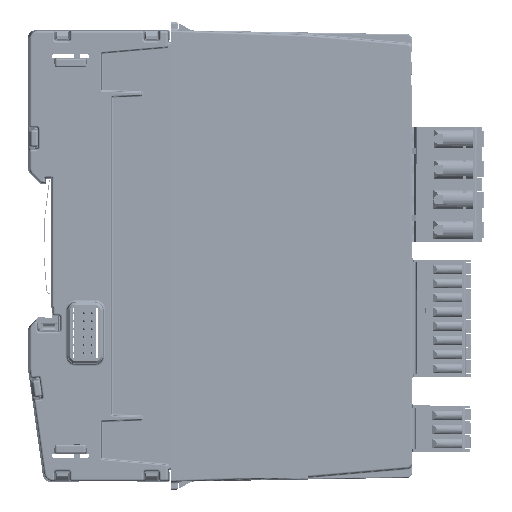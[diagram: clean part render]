
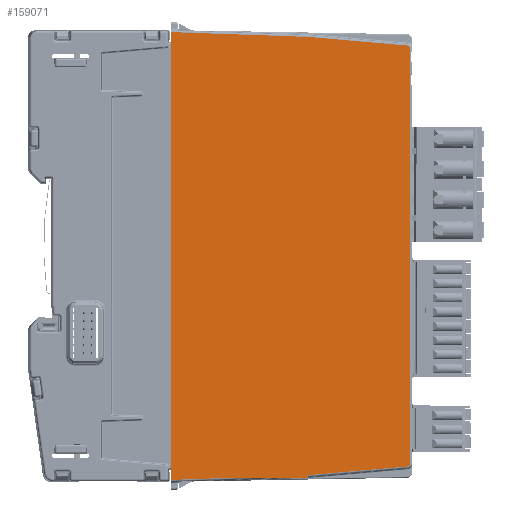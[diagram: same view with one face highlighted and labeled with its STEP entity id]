
A CAD part, left-side view. The second image highlights one B-rep face of the part: STEP entity #159071.
In plain terms, the highlighted planar face has unit normal (-1, -0.018, 0).
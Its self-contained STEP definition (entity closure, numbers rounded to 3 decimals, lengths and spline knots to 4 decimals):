
#4876=ELLIPSE('',#171214,0.0315,0.0315);
#4877=ELLIPSE('',#171215,0.0315,0.0315);
#9772=PLANE('',#171213);
#17433=FACE_OUTER_BOUND('',#26300,.T.);
#26300=EDGE_LOOP('',(#137357,#137358,#137359,#137360,#137361,#137362,#137363,
#137364,#137365,#137366,#137367,#137368,#137369));
#45633=LINE('',#270170,#61590);
#45646=LINE('',#270242,#61603);
#45703=LINE('',#270470,#61660);
#46033=LINE('',#272298,#61990);
#46034=LINE('',#272300,#61991);
#46035=LINE('',#272304,#61992);
#46036=LINE('',#272308,#61993);
#46037=LINE('',#272310,#61994);
#46038=LINE('',#272312,#61995);
#46039=LINE('',#272314,#61996);
#46040=LINE('',#272315,#61997);
#61590=VECTOR('',#207824,0.3937);
#61603=VECTOR('',#207865,0.3937);
#61660=VECTOR('',#208060,39.3701);
#61990=VECTOR('',#208784,39.3701);
#61991=VECTOR('',#208785,39.3701);
#61992=VECTOR('',#208788,39.3701);
#61993=VECTOR('',#208791,39.3701);
#61994=VECTOR('',#208792,39.3701);
#61995=VECTOR('',#208793,39.3701);
#61996=VECTOR('',#208794,39.3701);
#61997=VECTOR('',#208795,39.3701);
#75721=VERTEX_POINT('',#270166);
#75723=VERTEX_POINT('',#270169);
#75745=VERTEX_POINT('',#270237);
#75803=VERTEX_POINT('',#270469);
#76172=VERTEX_POINT('',#272297);
#76173=VERTEX_POINT('',#272299);
#76174=VERTEX_POINT('',#272301);
#76175=VERTEX_POINT('',#272303);
#76176=VERTEX_POINT('',#272305);
#76177=VERTEX_POINT('',#272307);
#76178=VERTEX_POINT('',#272309);
#76179=VERTEX_POINT('',#272311);
#76180=VERTEX_POINT('',#272313);
#96202=EDGE_CURVE('',#75721,#75723,#45633,.T.);
#96229=EDGE_CURVE('',#75723,#75745,#45646,.T.);
#96322=EDGE_CURVE('',#75803,#75745,#45703,.T.);
#96852=EDGE_CURVE('',#75721,#76172,#46033,.T.);
#96853=EDGE_CURVE('',#76172,#76173,#46034,.T.);
#96854=EDGE_CURVE('',#76173,#76174,#4876,.T.);
#96855=EDGE_CURVE('',#76174,#76175,#46035,.T.);
#96856=EDGE_CURVE('',#76175,#76176,#4877,.T.);
#96857=EDGE_CURVE('',#76176,#76177,#46036,.T.);
#96858=EDGE_CURVE('',#76177,#76178,#46037,.T.);
#96859=EDGE_CURVE('',#76178,#76179,#46038,.T.);
#96860=EDGE_CURVE('',#76180,#76179,#46039,.T.);
#96861=EDGE_CURVE('',#76180,#75803,#46040,.T.);
#137357=ORIENTED_EDGE('',*,*,#96852,.T.);
#137358=ORIENTED_EDGE('',*,*,#96853,.T.);
#137359=ORIENTED_EDGE('',*,*,#96854,.T.);
#137360=ORIENTED_EDGE('',*,*,#96855,.T.);
#137361=ORIENTED_EDGE('',*,*,#96856,.T.);
#137362=ORIENTED_EDGE('',*,*,#96857,.T.);
#137363=ORIENTED_EDGE('',*,*,#96858,.T.);
#137364=ORIENTED_EDGE('',*,*,#96859,.T.);
#137365=ORIENTED_EDGE('',*,*,#96860,.F.);
#137366=ORIENTED_EDGE('',*,*,#96861,.T.);
#137367=ORIENTED_EDGE('',*,*,#96322,.T.);
#137368=ORIENTED_EDGE('',*,*,#96229,.F.);
#137369=ORIENTED_EDGE('',*,*,#96202,.F.);
#159071=ADVANCED_FACE('',(#17433),#9772,.T.);
#171213=AXIS2_PLACEMENT_3D('',#272296,#208782,#208783);
#171214=AXIS2_PLACEMENT_3D('',#272302,#208786,#208787);
#171215=AXIS2_PLACEMENT_3D('',#272306,#208789,#208790);
#207824=DIRECTION('',(0.,0.,-1.));
#207865=DIRECTION('',(-0.017,1.,0.));
#208060=DIRECTION('',(0.017,-0.999,0.035));
#208782=DIRECTION('center_axis',(-1.,-0.017,
0.));
#208783=DIRECTION('ref_axis',(-0.017,1.,0.));
#208784=DIRECTION('',(0.017,-0.999,0.035));
#208785=DIRECTION('',(0.017,-0.996,0.087));
#208786=DIRECTION('center_axis',(-1.,-0.017,
0.));
#208787=DIRECTION('ref_axis',(0.017,-1.,0.));
#208788=DIRECTION('',(0.,0.,1.));
#208789=DIRECTION('center_axis',(-1.,-0.017,
0.));
#208790=DIRECTION('ref_axis',(0.017,-1.,0.));
#208791=DIRECTION('',(-0.017,0.996,0.087));
#208792=DIRECTION('',(-0.017,0.999,0.035));
#208793=DIRECTION('',(0.,0.,-1.));
#208794=DIRECTION('',(0.,0.,1.));
#208795=DIRECTION('',(0.,0.,-1.));
#270166=CARTESIAN_POINT('',(0.0005,-2.2096,-4.1958));
#270169=CARTESIAN_POINT('',(0.0005,-2.2096,-4.2206));
#270170=CARTESIAN_POINT('',(0.0005,-2.2096,-3.155));
#270237=CARTESIAN_POINT('',(-0.0119,-1.4997,-4.2206));
#270242=CARTESIAN_POINT('',(-0.0131,-1.4351,-4.2206));
#270469=CARTESIAN_POINT('',(-0.0227,-0.8827,-4.2421));
#270470=CARTESIAN_POINT('',(-0.0282,-0.5654,-4.2532));
#272296=CARTESIAN_POINT('Origin',(-0.0296,-0.489,
-2.0669));
#272297=CARTESIAN_POINT('',(0.0007,-2.2205,-4.1954));
#272298=CARTESIAN_POINT('',(-0.0282,-0.5654,-4.2532));
#272299=CARTESIAN_POINT('',(0.0174,-3.1772,-4.1117));
#272300=CARTESIAN_POINT('',(-0.0261,-0.6869,-4.3296));
#272301=CARTESIAN_POINT('',(0.0179,-3.2059,-4.0803));
#272302=CARTESIAN_POINT('Origin',(0.0173,-3.1744,
-4.0803));
#272303=CARTESIAN_POINT('',(0.0179,-3.2059,-0.0535));
#272304=CARTESIAN_POINT('',(0.0179,-3.2059,-0.0535));
#272305=CARTESIAN_POINT('',(0.0174,-3.1772,-0.0221));
#272306=CARTESIAN_POINT('Origin',(0.0173,-3.1744,
-0.0535));
#272307=CARTESIAN_POINT('',(0.0007,-2.2205,0.0616));
#272308=CARTESIAN_POINT('',(-0.0261,-0.6869,0.1957));
#272309=CARTESIAN_POINT('',(-0.0227,-0.8827,0.1083));
#272310=CARTESIAN_POINT('',(-0.0282,-0.5654,0.1194));
#272311=CARTESIAN_POINT('',(-0.0227,-0.8827,-0.0312));
#272312=CARTESIAN_POINT('',(-0.0227,-0.8827,0.128));
#272313=CARTESIAN_POINT('',(-0.0227,-0.8827,-4.1027));
#272314=CARTESIAN_POINT('',(-0.0227,-0.8827,-7.5932));
#272315=CARTESIAN_POINT('',(-0.0227,-0.8827,0.128));
